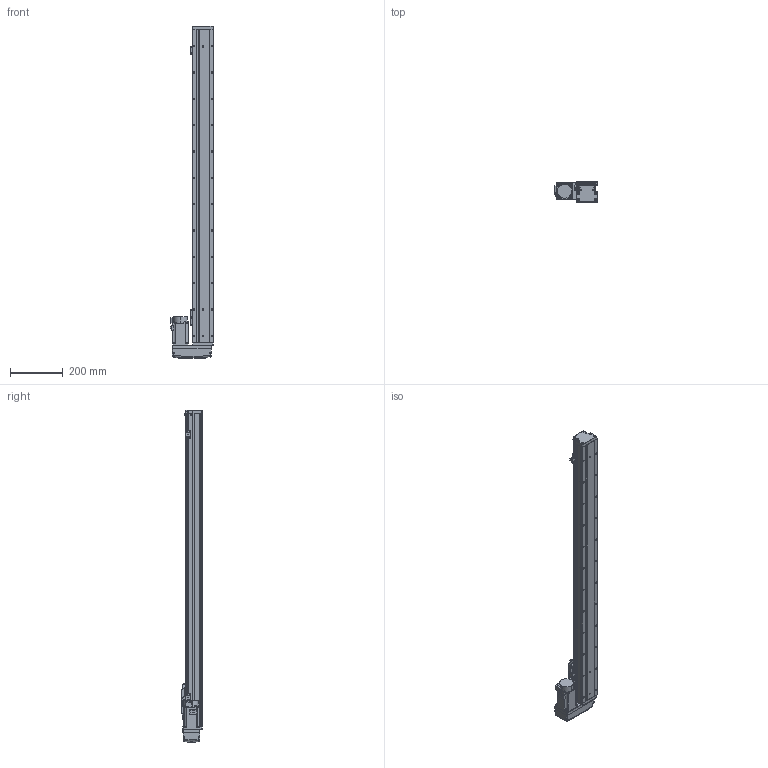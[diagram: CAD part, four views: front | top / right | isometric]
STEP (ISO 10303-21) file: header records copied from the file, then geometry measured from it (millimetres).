
FILE_DESCRIPTION (( 'STEP AP203' ), '1' );
FILE_NAME ('GTH8-1000-BL-M20-C4.step', '2022-09-23T00:58:49', ( '微软用户' ), ( '微软中国' ), 'SwSTEP 2.0', 'SolidWorks 2020', '' );
FILE_SCHEMA (( 'CONFIG_CONTROL_DESIGN' ));
Length unit declared in the file: millimetre
Products named in the file (18): GTH80-006; GTH50-024; GTH8-1000-BL-M20-C4; GTH80-013; GTH50-023; GBT 70.3-M3℅6; GBT96.1-2002 3×0.8; GTH80-022; BTH-M3X5X6; GTH80-001_1000; GBT 70.1-M3℅6; hg-kn43j_-s100_; GTH80-003; GBT 70.1-M4×16; CTHA86-015-1_CTHA86-015-2; GTH80-004; GTH80-028; CTHA86-033_M40B
Assembly tree (57 placements, depth 2):
  GTH8-1000-BL-M20-C4
    GTH80-001_1000
    GTH80-003
    GTH80-004
    GTH80-006
    GTH80-013
    GBT 70.3-M3℅6  x4
    GTH80-022
    GBT 70.1-M3℅6  x14
    GBT 70.1-M4×16  x8
    GTH80-028  x2
    GTH50-024  x3
    GTH50-023  x3
    GBT96.1-2002 3×0.8  x6
    BTH-M3X5X6  x8
    hg-kn43j_-s100_
    CTHA86-015-1_CTHA86-015-2
    CTHA86-033_M40B
Bounding box: 164.8 x 78 x 1261 mm (x, y, z)
Volume: 6140312.6 mm3; surface area: 597168.7 mm2
Topology: 59 solids, 59 shells, 2256 faces, 5223 edges, 3203 vertices
Faces by surface type: plane 1187, cylinder 627, cone 260, torus 166, bspline 8, sphere 8
Entity records: 41514 total; most frequent: CARTESIAN_POINT 7289, DIRECTION 6761, ORIENTED_EDGE 6264, EDGE_CURVE 3132, AXIS2_PLACEMENT_3D 2373, VECTOR 2015, LINE 2015, VERTEX_POINT 1978
